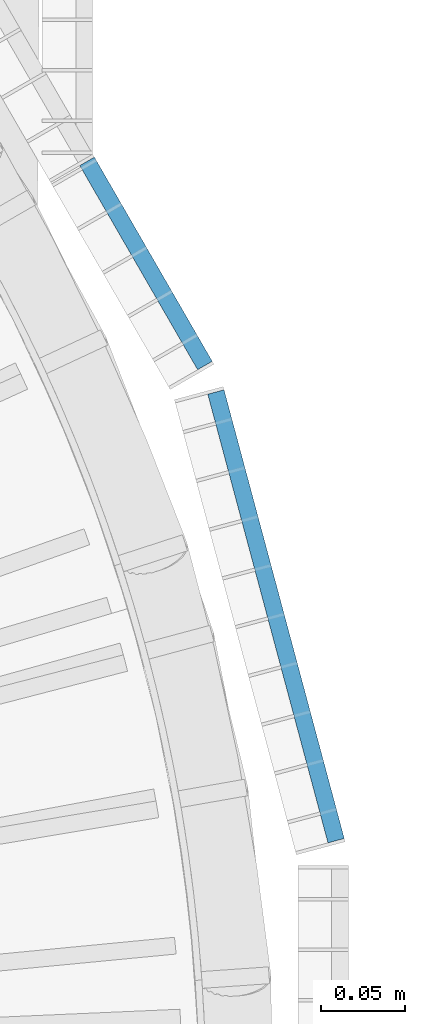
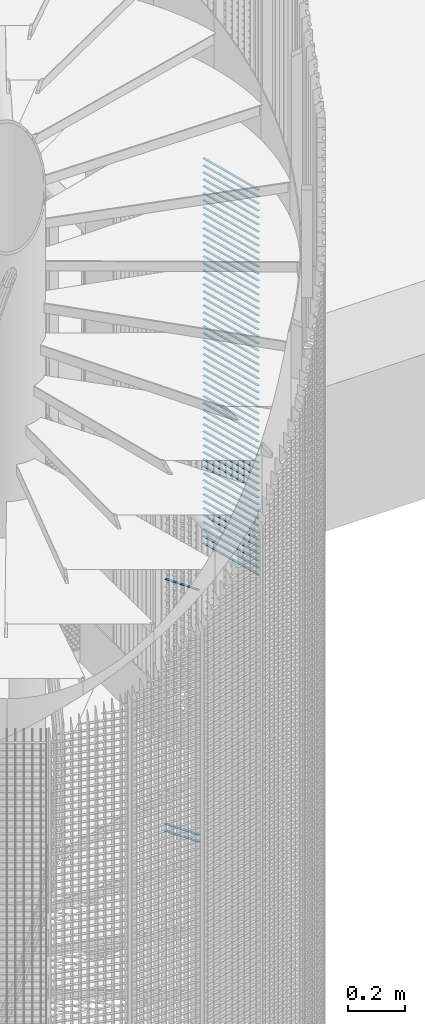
# One storey, part 294 of 1183: 59 beams, 2 elements without a shape of their own.
"""IFC2X3 building model written with IfcOpenShell, lengths in millimetres."""

from ifc_helpers import new_model, si_unit, frame, origin_with_axes, origin_2d_with_axis, place, context, subcontext, project, spatial, rectangle, extrude, material, type_object, element, aggregate, save


model = new_model("IFC2X3")

# Units and contexts
model_context = context("Model", 3, precision=1e-05, world=origin_with_axes())
body_context = subcontext(model_context, "Body", "Model", "MODEL_VIEW")
ifc_project = project(units=[si_unit("LENGTHUNIT", "METRE", prefix="MILLI"), si_unit("AREAUNIT", "SQUARE_METRE"), si_unit("VOLUMEUNIT", "CUBIC_METRE"), si_unit("MASSUNIT", "GRAM", prefix="KILO"), si_unit("TIMEUNIT", "SECOND"), si_unit("PLANEANGLEUNIT", "RADIAN"), si_unit("SOLIDANGLEUNIT", "STERADIAN"), si_unit("THERMODYNAMICTEMPERATUREUNIT", "DEGREE_CELSIUS"), si_unit("LUMINOUSINTENSITYUNIT", "LUMEN")], contexts=[model_context])

# Site, building, storey
site_placement = place(None, origin_with_axes())
site = spatial("IfcSite", under=ifc_project, at=site_placement, Name="Undefined", CompositionType="ELEMENT")
building_placement = place(site_placement, origin_with_axes())
building = spatial("IfcBuilding", under=site, at=building_placement, Name="Undefined", CompositionType="ELEMENT")
storey_placement = place(building_placement, origin_with_axes())
storey = spatial("IfcBuildingStorey", under=building, at=storey_placement, Name="Undefined", CompositionType="ELEMENT", Elevation=0.0)

# Assembly, beams
assembly_1_placement = place(storey_placement, origin_with_axes())
assembly_1 = element("IfcElementAssembly", 1, at=assembly_1_placement, inside=storey, Name="BORDURE", AssemblyPlace="NOTDEFINED", PredefinedType="NOTDEFINED")
ifc_material = material(Name="STEEL/S235JR")
beam_type = type_object("IfcBeamType", Name="PL2*10", PredefinedType="NOTDEFINED")
beam_1_placement = place(assembly_1_placement, frame((1033.2999428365, 437.231999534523, 6060.0), z_axis=(0.866030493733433, 0.499991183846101, 0.0), x_axis=(-0.499991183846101, 0.866030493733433, 0.0)))
beam_1 = element("IfcBeam", 2, at=beam_1_placement, type_object=beam_type, material=ifc_material, Name="ENTRETOISE", context=body_context, shape_type="SweptSolid", body=[
    extrude(rectangle(XDim=2.0, YDim=10.0, at=origin_2d_with_axis()), frame((140.102470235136, 0.0, 0.0), z_axis=(-1.0, 0.0, 0.0), x_axis=(0.0, -1.0, 0.0)), (0.0, 0.0, 1.0), 140.1),
])
beam_2_placement = place(assembly_1_placement, frame((1033.29994283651, 437.23199953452, 7110.0), z_axis=(0.866030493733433, 0.499991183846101, 0.0), x_axis=(-0.499991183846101, 0.866030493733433, 0.0)))
beam_2 = element("IfcBeam", 3, at=beam_2_placement, type_object=beam_type, material=ifc_material, Name="ENTRETOISE", context=body_context, shape_type="SweptSolid", body=[
    extrude(rectangle(XDim=2.0, YDim=10.0, at=origin_2d_with_axis()), frame((140.102470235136, 0.0, 0.0), z_axis=(-1.0, 0.0, 0.0), x_axis=(0.0, -1.0, 0.0)), (0.0, 0.0, 1.0), 140.1),
])
beam_3_placement = place(assembly_1_placement, frame((1033.2999428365, 437.231999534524, 6030.0), z_axis=(0.866030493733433, 0.499991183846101, 0.0), x_axis=(-0.499991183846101, 0.866030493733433, 0.0)))
beam_3 = element("IfcBeam", 4, at=beam_3_placement, type_object=beam_type, material=ifc_material, Name="ENTRETOISE", context=body_context, shape_type="SweptSolid", body=[
    extrude(rectangle(XDim=2.0, YDim=10.0, at=origin_2d_with_axis()), frame((140.102470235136, 0.0, 0.0), z_axis=(-1.0, 0.0, 0.0), x_axis=(0.0, -1.0, 0.0)), (0.0, 0.0, 1.0), 140.1),
])
aggregate(assembly_1, [beam_1, beam_2, beam_3])

assembly_2_placement = place(storey_placement, origin_with_axes())
assembly_2 = element("IfcElementAssembly", 5, at=assembly_2_placement, inside=storey, Name="BORDURE", AssemblyPlace="NOTDEFINED", PredefinedType="NOTDEFINED")
beam_4_placement = place(assembly_2_placement, frame((1111.25508286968, 154.895926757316, 8970.0), z_axis=(0.965925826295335, 0.258819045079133, 0.0), x_axis=(-0.258819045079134, 0.965925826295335, 0.0)))
beam_4 = element("IfcBeam", 6, at=beam_4_placement, type_object=beam_type, material=ifc_material, Name="ENTRETOISE", context=body_context, shape_type="SweptSolid", body=[
    extrude(rectangle(XDim=2.0, YDim=10.0, at=origin_2d_with_axis()), frame((275.999999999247, 9.09494701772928e-13, 1.53210777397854e-14), z_axis=(-1.0, 0.0, 0.0), x_axis=(0.0, -1.0, 0.0)), (0.0, 0.0, 1.0), 276.0),
])
beam_5_placement = place(assembly_2_placement, frame((1111.25508286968, 154.895926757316, 8940.0), z_axis=(0.965925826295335, 0.258819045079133, 0.0), x_axis=(-0.258819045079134, 0.965925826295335, 0.0)))
beam_5 = element("IfcBeam", 7, at=beam_5_placement, type_object=beam_type, material=ifc_material, Name="ENTRETOISE", context=body_context, shape_type="SweptSolid", body=[
    extrude(rectangle(XDim=2.0, YDim=10.0, at=origin_2d_with_axis()), frame((275.999999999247, 9.09494701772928e-13, 1.53210777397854e-14), z_axis=(-1.0, 0.0, 0.0), x_axis=(0.0, -1.0, 0.0)), (0.0, 0.0, 1.0), 276.0),
])
beam_6_placement = place(assembly_2_placement, frame((1111.25508286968, 154.895926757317, 8910.0), z_axis=(0.965925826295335, 0.258819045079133, 0.0), x_axis=(-0.258819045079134, 0.965925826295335, 0.0)))
beam_6 = element("IfcBeam", 8, at=beam_6_placement, type_object=beam_type, material=ifc_material, Name="ENTRETOISE", context=body_context, shape_type="SweptSolid", body=[
    extrude(rectangle(XDim=2.0, YDim=10.0, at=origin_2d_with_axis()), frame((275.999999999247, 9.09494701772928e-13, 1.53210777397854e-14), z_axis=(-1.0, 0.0, 0.0), x_axis=(0.0, -1.0, 0.0)), (0.0, 0.0, 1.0), 276.0),
])
beam_7_placement = place(assembly_2_placement, frame((1111.25508286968, 154.895926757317, 8880.0), z_axis=(0.965925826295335, 0.258819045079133, 0.0), x_axis=(-0.258819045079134, 0.965925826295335, 0.0)))
beam_7 = element("IfcBeam", 9, at=beam_7_placement, type_object=beam_type, material=ifc_material, Name="ENTRETOISE", context=body_context, shape_type="SweptSolid", body=[
    extrude(rectangle(XDim=2.0, YDim=10.0, at=origin_2d_with_axis()), frame((275.999999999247, 9.09494701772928e-13, 1.53210777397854e-14), z_axis=(-1.0, 0.0, 0.0), x_axis=(0.0, -1.0, 0.0)), (0.0, 0.0, 1.0), 276.0),
])
beam_8_placement = place(assembly_2_placement, frame((1111.25508286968, 154.895926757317, 8850.0), z_axis=(0.965925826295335, 0.258819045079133, 0.0), x_axis=(-0.258819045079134, 0.965925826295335, 0.0)))
beam_8 = element("IfcBeam", 10, at=beam_8_placement, type_object=beam_type, material=ifc_material, Name="ENTRETOISE", context=body_context, shape_type="SweptSolid", body=[
    extrude(rectangle(XDim=2.0, YDim=10.0, at=origin_2d_with_axis()), frame((275.999999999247, 9.09494701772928e-13, 1.53210777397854e-14), z_axis=(-1.0, 0.0, 0.0), x_axis=(0.0, -1.0, 0.0)), (0.0, 0.0, 1.0), 276.0),
])
beam_9_placement = place(assembly_2_placement, frame((1111.25508286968, 154.895926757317, 8820.0), z_axis=(0.965925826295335, 0.258819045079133, 0.0), x_axis=(-0.258819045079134, 0.965925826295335, 0.0)))
beam_9 = element("IfcBeam", 11, at=beam_9_placement, type_object=beam_type, material=ifc_material, Name="ENTRETOISE", context=body_context, shape_type="SweptSolid", body=[
    extrude(rectangle(XDim=2.0, YDim=10.0, at=origin_2d_with_axis()), frame((275.999999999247, 9.09494701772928e-13, 1.53210777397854e-14), z_axis=(-1.0, 0.0, 0.0), x_axis=(0.0, -1.0, 0.0)), (0.0, 0.0, 1.0), 276.0),
])
beam_10_placement = place(assembly_2_placement, frame((1111.25508286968, 154.895926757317, 8790.0), z_axis=(0.965925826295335, 0.258819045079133, 0.0), x_axis=(-0.258819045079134, 0.965925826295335, 0.0)))
beam_10 = element("IfcBeam", 12, at=beam_10_placement, type_object=beam_type, material=ifc_material, Name="ENTRETOISE", context=body_context, shape_type="SweptSolid", body=[
    extrude(rectangle(XDim=2.0, YDim=10.0, at=origin_2d_with_axis()), frame((275.999999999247, 9.09494701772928e-13, 1.53210777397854e-14), z_axis=(-1.0, 0.0, 0.0), x_axis=(0.0, -1.0, 0.0)), (0.0, 0.0, 1.0), 276.0),
])
beam_11_placement = place(assembly_2_placement, frame((1111.25508286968, 154.895926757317, 8760.0), z_axis=(0.965925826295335, 0.258819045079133, 0.0), x_axis=(-0.258819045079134, 0.965925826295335, 0.0)))
beam_11 = element("IfcBeam", 13, at=beam_11_placement, type_object=beam_type, material=ifc_material, Name="ENTRETOISE", context=body_context, shape_type="SweptSolid", body=[
    extrude(rectangle(XDim=2.0, YDim=10.0, at=origin_2d_with_axis()), frame((275.999999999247, 9.09494701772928e-13, 1.53210777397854e-14), z_axis=(-1.0, 0.0, 0.0), x_axis=(0.0, -1.0, 0.0)), (0.0, 0.0, 1.0), 276.0),
])
beam_12_placement = place(assembly_2_placement, frame((1111.25508286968, 154.895926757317, 8730.0), z_axis=(0.965925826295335, 0.258819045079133, 0.0), x_axis=(-0.258819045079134, 0.965925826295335, 0.0)))
beam_12 = element("IfcBeam", 14, at=beam_12_placement, type_object=beam_type, material=ifc_material, Name="ENTRETOISE", context=body_context, shape_type="SweptSolid", body=[
    extrude(rectangle(XDim=2.0, YDim=10.0, at=origin_2d_with_axis()), frame((275.999999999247, 9.09494701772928e-13, 1.53210777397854e-14), z_axis=(-1.0, 0.0, 0.0), x_axis=(0.0, -1.0, 0.0)), (0.0, 0.0, 1.0), 276.0),
])
beam_13_placement = place(assembly_2_placement, frame((1111.25508286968, 154.895926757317, 8700.0), z_axis=(0.965925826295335, 0.258819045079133, 0.0), x_axis=(-0.258819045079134, 0.965925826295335, 0.0)))
beam_13 = element("IfcBeam", 15, at=beam_13_placement, type_object=beam_type, material=ifc_material, Name="ENTRETOISE", context=body_context, shape_type="SweptSolid", body=[
    extrude(rectangle(XDim=2.0, YDim=10.0, at=origin_2d_with_axis()), frame((275.999999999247, 9.09494701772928e-13, 1.53210777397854e-14), z_axis=(-1.0, 0.0, 0.0), x_axis=(0.0, -1.0, 0.0)), (0.0, 0.0, 1.0), 276.0),
])
beam_14_placement = place(assembly_2_placement, frame((1111.25508286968, 154.895926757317, 8670.0), z_axis=(0.965925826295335, 0.258819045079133, 0.0), x_axis=(-0.258819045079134, 0.965925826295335, 0.0)))
beam_14 = element("IfcBeam", 16, at=beam_14_placement, type_object=beam_type, material=ifc_material, Name="ENTRETOISE", context=body_context, shape_type="SweptSolid", body=[
    extrude(rectangle(XDim=2.0, YDim=10.0, at=origin_2d_with_axis()), frame((275.999999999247, 9.09494701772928e-13, 1.53210777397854e-14), z_axis=(-1.0, 0.0, 0.0), x_axis=(0.0, -1.0, 0.0)), (0.0, 0.0, 1.0), 276.0),
])
beam_15_placement = place(assembly_2_placement, frame((1111.25508286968, 154.895926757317, 8640.0), z_axis=(0.965925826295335, 0.258819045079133, 0.0), x_axis=(-0.258819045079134, 0.965925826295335, 0.0)))
beam_15 = element("IfcBeam", 17, at=beam_15_placement, type_object=beam_type, material=ifc_material, Name="ENTRETOISE", context=body_context, shape_type="SweptSolid", body=[
    extrude(rectangle(XDim=2.0, YDim=10.0, at=origin_2d_with_axis()), frame((275.999999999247, 9.09494701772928e-13, 1.53210777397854e-14), z_axis=(-1.0, 0.0, 0.0), x_axis=(0.0, -1.0, 0.0)), (0.0, 0.0, 1.0), 276.0),
])
beam_16_placement = place(assembly_2_placement, frame((1111.25508286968, 154.895926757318, 8610.0), z_axis=(0.965925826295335, 0.258819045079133, 0.0), x_axis=(-0.258819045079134, 0.965925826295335, 0.0)))
beam_16 = element("IfcBeam", 18, at=beam_16_placement, type_object=beam_type, material=ifc_material, Name="ENTRETOISE", context=body_context, shape_type="SweptSolid", body=[
    extrude(rectangle(XDim=2.0, YDim=10.0, at=origin_2d_with_axis()), frame((275.999999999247, 9.09494701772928e-13, 1.53210777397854e-14), z_axis=(-1.0, 0.0, 0.0), x_axis=(0.0, -1.0, 0.0)), (0.0, 0.0, 1.0), 276.0),
])
beam_17_placement = place(assembly_2_placement, frame((1111.25508286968, 154.895926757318, 8580.0), z_axis=(0.965925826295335, 0.258819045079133, 0.0), x_axis=(-0.258819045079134, 0.965925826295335, 0.0)))
beam_17 = element("IfcBeam", 19, at=beam_17_placement, type_object=beam_type, material=ifc_material, Name="ENTRETOISE", context=body_context, shape_type="SweptSolid", body=[
    extrude(rectangle(XDim=2.0, YDim=10.0, at=origin_2d_with_axis()), frame((275.999999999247, 9.09494701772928e-13, 1.53210777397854e-14), z_axis=(-1.0, 0.0, 0.0), x_axis=(0.0, -1.0, 0.0)), (0.0, 0.0, 1.0), 276.0),
])
beam_18_placement = place(assembly_2_placement, frame((1111.25508286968, 154.895926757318, 8550.0), z_axis=(0.965925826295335, 0.258819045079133, 0.0), x_axis=(-0.258819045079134, 0.965925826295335, 0.0)))
beam_18 = element("IfcBeam", 20, at=beam_18_placement, type_object=beam_type, material=ifc_material, Name="ENTRETOISE", context=body_context, shape_type="SweptSolid", body=[
    extrude(rectangle(XDim=2.0, YDim=10.0, at=origin_2d_with_axis()), frame((275.999999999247, 9.09494701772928e-13, 1.53210777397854e-14), z_axis=(-1.0, 0.0, 0.0), x_axis=(0.0, -1.0, 0.0)), (0.0, 0.0, 1.0), 276.0),
])
beam_19_placement = place(assembly_2_placement, frame((1111.25508286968, 154.895926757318, 8520.0), z_axis=(0.965925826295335, 0.258819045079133, 0.0), x_axis=(-0.258819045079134, 0.965925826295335, 0.0)))
beam_19 = element("IfcBeam", 21, at=beam_19_placement, type_object=beam_type, material=ifc_material, Name="ENTRETOISE", context=body_context, shape_type="SweptSolid", body=[
    extrude(rectangle(XDim=2.0, YDim=10.0, at=origin_2d_with_axis()), frame((275.999999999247, 9.09494701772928e-13, 1.53210777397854e-14), z_axis=(-1.0, 0.0, 0.0), x_axis=(0.0, -1.0, 0.0)), (0.0, 0.0, 1.0), 276.0),
])
beam_20_placement = place(assembly_2_placement, frame((1111.25508286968, 154.895926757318, 8490.0), z_axis=(0.965925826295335, 0.258819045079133, 0.0), x_axis=(-0.258819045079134, 0.965925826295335, 0.0)))
beam_20 = element("IfcBeam", 22, at=beam_20_placement, type_object=beam_type, material=ifc_material, Name="ENTRETOISE", context=body_context, shape_type="SweptSolid", body=[
    extrude(rectangle(XDim=2.0, YDim=10.0, at=origin_2d_with_axis()), frame((275.999999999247, 9.09494701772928e-13, 1.53210777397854e-14), z_axis=(-1.0, 0.0, 0.0), x_axis=(0.0, -1.0, 0.0)), (0.0, 0.0, 1.0), 276.0),
])
beam_21_placement = place(assembly_2_placement, frame((1111.25508286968, 154.895926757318, 8460.0), z_axis=(0.965925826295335, 0.258819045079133, 0.0), x_axis=(-0.258819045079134, 0.965925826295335, 0.0)))
beam_21 = element("IfcBeam", 23, at=beam_21_placement, type_object=beam_type, material=ifc_material, Name="ENTRETOISE", context=body_context, shape_type="SweptSolid", body=[
    extrude(rectangle(XDim=2.0, YDim=10.0, at=origin_2d_with_axis()), frame((275.999999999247, 9.09494701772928e-13, 1.53210777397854e-14), z_axis=(-1.0, 0.0, 0.0), x_axis=(0.0, -1.0, 0.0)), (0.0, 0.0, 1.0), 276.0),
])
beam_22_placement = place(assembly_2_placement, frame((1111.25508286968, 154.895926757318, 8430.0), z_axis=(0.965925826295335, 0.258819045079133, 0.0), x_axis=(-0.258819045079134, 0.965925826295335, 0.0)))
beam_22 = element("IfcBeam", 24, at=beam_22_placement, type_object=beam_type, material=ifc_material, Name="ENTRETOISE", context=body_context, shape_type="SweptSolid", body=[
    extrude(rectangle(XDim=2.0, YDim=10.0, at=origin_2d_with_axis()), frame((275.999999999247, 9.09494701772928e-13, 1.53210777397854e-14), z_axis=(-1.0, 0.0, 0.0), x_axis=(0.0, -1.0, 0.0)), (0.0, 0.0, 1.0), 276.0),
])
beam_23_placement = place(assembly_2_placement, frame((1111.25508286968, 154.895926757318, 8400.0), z_axis=(0.965925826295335, 0.258819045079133, 0.0), x_axis=(-0.258819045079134, 0.965925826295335, 0.0)))
beam_23 = element("IfcBeam", 25, at=beam_23_placement, type_object=beam_type, material=ifc_material, Name="ENTRETOISE", context=body_context, shape_type="SweptSolid", body=[
    extrude(rectangle(XDim=2.0, YDim=10.0, at=origin_2d_with_axis()), frame((275.999999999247, 9.09494701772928e-13, 1.53210777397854e-14), z_axis=(-1.0, 0.0, 0.0), x_axis=(0.0, -1.0, 0.0)), (0.0, 0.0, 1.0), 276.0),
])
beam_24_placement = place(assembly_2_placement, frame((1111.25508286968, 154.895926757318, 8370.0), z_axis=(0.965925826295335, 0.258819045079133, 0.0), x_axis=(-0.258819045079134, 0.965925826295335, 0.0)))
beam_24 = element("IfcBeam", 26, at=beam_24_placement, type_object=beam_type, material=ifc_material, Name="ENTRETOISE", context=body_context, shape_type="SweptSolid", body=[
    extrude(rectangle(XDim=2.0, YDim=10.0, at=origin_2d_with_axis()), frame((275.999999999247, 9.09494701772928e-13, 1.53210777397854e-14), z_axis=(-1.0, 0.0, 0.0), x_axis=(0.0, -1.0, 0.0)), (0.0, 0.0, 1.0), 276.0),
])
beam_25_placement = place(assembly_2_placement, frame((1111.25508286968, 154.895926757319, 8340.0), z_axis=(0.965925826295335, 0.258819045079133, 0.0), x_axis=(-0.258819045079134, 0.965925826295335, 0.0)))
beam_25 = element("IfcBeam", 27, at=beam_25_placement, type_object=beam_type, material=ifc_material, Name="ENTRETOISE", context=body_context, shape_type="SweptSolid", body=[
    extrude(rectangle(XDim=2.0, YDim=10.0, at=origin_2d_with_axis()), frame((275.999999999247, 9.09494701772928e-13, 1.53210777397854e-14), z_axis=(-1.0, 0.0, 0.0), x_axis=(0.0, -1.0, 0.0)), (0.0, 0.0, 1.0), 276.0),
])
beam_26_placement = place(assembly_2_placement, frame((1111.25508286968, 154.895926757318, 8310.0), z_axis=(0.965925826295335, 0.258819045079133, 0.0), x_axis=(-0.258819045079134, 0.965925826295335, 0.0)))
beam_26 = element("IfcBeam", 28, at=beam_26_placement, type_object=beam_type, material=ifc_material, Name="ENTRETOISE", context=body_context, shape_type="SweptSolid", body=[
    extrude(rectangle(XDim=2.0, YDim=10.0, at=origin_2d_with_axis()), frame((275.999999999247, 9.09494701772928e-13, 1.53210777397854e-14), z_axis=(-1.0, 0.0, 0.0), x_axis=(0.0, -1.0, 0.0)), (0.0, 0.0, 1.0), 276.0),
])
beam_27_placement = place(assembly_2_placement, frame((1111.25508286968, 154.895926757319, 8280.0), z_axis=(0.965925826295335, 0.258819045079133, 0.0), x_axis=(-0.258819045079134, 0.965925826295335, 0.0)))
beam_27 = element("IfcBeam", 29, at=beam_27_placement, type_object=beam_type, material=ifc_material, Name="ENTRETOISE", context=body_context, shape_type="SweptSolid", body=[
    extrude(rectangle(XDim=2.0, YDim=10.0, at=origin_2d_with_axis()), frame((275.999999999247, 9.09494701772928e-13, 1.53210777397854e-14), z_axis=(-1.0, 0.0, 0.0), x_axis=(0.0, -1.0, 0.0)), (0.0, 0.0, 1.0), 276.0),
])
beam_28_placement = place(assembly_2_placement, frame((1111.25508286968, 154.895926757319, 8250.0), z_axis=(0.965925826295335, 0.258819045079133, 0.0), x_axis=(-0.258819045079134, 0.965925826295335, 0.0)))
beam_28 = element("IfcBeam", 30, at=beam_28_placement, type_object=beam_type, material=ifc_material, Name="ENTRETOISE", context=body_context, shape_type="SweptSolid", body=[
    extrude(rectangle(XDim=2.0, YDim=10.0, at=origin_2d_with_axis()), frame((275.999999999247, 9.09494701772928e-13, 1.53210777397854e-14), z_axis=(-1.0, 0.0, 0.0), x_axis=(0.0, -1.0, 0.0)), (0.0, 0.0, 1.0), 276.0),
])
beam_29_placement = place(assembly_2_placement, frame((1111.25508286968, 154.895926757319, 8220.0), z_axis=(0.965925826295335, 0.258819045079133, 0.0), x_axis=(-0.258819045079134, 0.965925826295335, 0.0)))
beam_29 = element("IfcBeam", 31, at=beam_29_placement, type_object=beam_type, material=ifc_material, Name="ENTRETOISE", context=body_context, shape_type="SweptSolid", body=[
    extrude(rectangle(XDim=2.0, YDim=10.0, at=origin_2d_with_axis()), frame((275.999999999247, 9.09494701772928e-13, 1.53210777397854e-14), z_axis=(-1.0, 0.0, 0.0), x_axis=(0.0, -1.0, 0.0)), (0.0, 0.0, 1.0), 276.0),
])
beam_30_placement = place(assembly_2_placement, frame((1111.25508286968, 154.895926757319, 8190.0), z_axis=(0.965925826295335, 0.258819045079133, 0.0), x_axis=(-0.258819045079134, 0.965925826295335, 0.0)))
beam_30 = element("IfcBeam", 32, at=beam_30_placement, type_object=beam_type, material=ifc_material, Name="ENTRETOISE", context=body_context, shape_type="SweptSolid", body=[
    extrude(rectangle(XDim=2.0, YDim=10.0, at=origin_2d_with_axis()), frame((275.999999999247, 9.09494701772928e-13, 1.53210777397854e-14), z_axis=(-1.0, 0.0, 0.0), x_axis=(0.0, -1.0, 0.0)), (0.0, 0.0, 1.0), 276.0),
])
beam_31_placement = place(assembly_2_placement, frame((1111.25508286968, 154.895926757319, 8160.0), z_axis=(0.965925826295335, 0.258819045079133, 0.0), x_axis=(-0.258819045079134, 0.965925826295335, 0.0)))
beam_31 = element("IfcBeam", 33, at=beam_31_placement, type_object=beam_type, material=ifc_material, Name="ENTRETOISE", context=body_context, shape_type="SweptSolid", body=[
    extrude(rectangle(XDim=2.0, YDim=10.0, at=origin_2d_with_axis()), frame((275.999999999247, 9.09494701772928e-13, 1.53210777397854e-14), z_axis=(-1.0, 0.0, 0.0), x_axis=(0.0, -1.0, 0.0)), (0.0, 0.0, 1.0), 276.0),
])
beam_32_placement = place(assembly_2_placement, frame((1111.25508286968, 154.895926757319, 8130.0), z_axis=(0.965925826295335, 0.258819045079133, 0.0), x_axis=(-0.258819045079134, 0.965925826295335, 0.0)))
beam_32 = element("IfcBeam", 34, at=beam_32_placement, type_object=beam_type, material=ifc_material, Name="ENTRETOISE", context=body_context, shape_type="SweptSolid", body=[
    extrude(rectangle(XDim=2.0, YDim=10.0, at=origin_2d_with_axis()), frame((275.999999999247, 9.09494701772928e-13, 1.53210777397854e-14), z_axis=(-1.0, 0.0, 0.0), x_axis=(0.0, -1.0, 0.0)), (0.0, 0.0, 1.0), 276.0),
])
beam_33_placement = place(assembly_2_placement, frame((1111.25508286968, 154.895926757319, 8100.0), z_axis=(0.965925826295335, 0.258819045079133, 0.0), x_axis=(-0.258819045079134, 0.965925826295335, 0.0)))
beam_33 = element("IfcBeam", 35, at=beam_33_placement, type_object=beam_type, material=ifc_material, Name="ENTRETOISE", context=body_context, shape_type="SweptSolid", body=[
    extrude(rectangle(XDim=2.0, YDim=10.0, at=origin_2d_with_axis()), frame((275.999999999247, 9.09494701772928e-13, 1.53210777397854e-14), z_axis=(-1.0, 0.0, 0.0), x_axis=(0.0, -1.0, 0.0)), (0.0, 0.0, 1.0), 276.0),
])
beam_34_placement = place(assembly_2_placement, frame((1111.25508286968, 154.895926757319, 8070.0), z_axis=(0.965925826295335, 0.258819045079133, 0.0), x_axis=(-0.258819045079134, 0.965925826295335, 0.0)))
beam_34 = element("IfcBeam", 36, at=beam_34_placement, type_object=beam_type, material=ifc_material, Name="ENTRETOISE", context=body_context, shape_type="SweptSolid", body=[
    extrude(rectangle(XDim=2.0, YDim=10.0, at=origin_2d_with_axis()), frame((275.999999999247, 9.09494701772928e-13, 1.53210777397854e-14), z_axis=(-1.0, 0.0, 0.0), x_axis=(0.0, -1.0, 0.0)), (0.0, 0.0, 1.0), 276.0),
])
beam_35_placement = place(assembly_2_placement, frame((1111.25508286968, 154.89592675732, 8040.0), z_axis=(0.965925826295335, 0.258819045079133, 0.0), x_axis=(-0.258819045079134, 0.965925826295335, 0.0)))
beam_35 = element("IfcBeam", 37, at=beam_35_placement, type_object=beam_type, material=ifc_material, Name="ENTRETOISE", context=body_context, shape_type="SweptSolid", body=[
    extrude(rectangle(XDim=2.0, YDim=10.0, at=origin_2d_with_axis()), frame((275.999999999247, 9.09494701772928e-13, 1.53210777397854e-14), z_axis=(-1.0, 0.0, 0.0), x_axis=(0.0, -1.0, 0.0)), (0.0, 0.0, 1.0), 276.0),
])
beam_36_placement = place(assembly_2_placement, frame((1111.25508286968, 154.89592675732, 8010.0), z_axis=(0.965925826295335, 0.258819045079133, 0.0), x_axis=(-0.258819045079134, 0.965925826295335, 0.0)))
beam_36 = element("IfcBeam", 38, at=beam_36_placement, type_object=beam_type, material=ifc_material, Name="ENTRETOISE", context=body_context, shape_type="SweptSolid", body=[
    extrude(rectangle(XDim=2.0, YDim=10.0, at=origin_2d_with_axis()), frame((275.999999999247, 9.09494701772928e-13, 1.53210777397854e-14), z_axis=(-1.0, 0.0, 0.0), x_axis=(0.0, -1.0, 0.0)), (0.0, 0.0, 1.0), 276.0),
])
beam_37_placement = place(assembly_2_placement, frame((1111.25508286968, 154.89592675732, 7980.0), z_axis=(0.965925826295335, 0.258819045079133, 0.0), x_axis=(-0.258819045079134, 0.965925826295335, 0.0)))
beam_37 = element("IfcBeam", 39, at=beam_37_placement, type_object=beam_type, material=ifc_material, Name="ENTRETOISE", context=body_context, shape_type="SweptSolid", body=[
    extrude(rectangle(XDim=2.0, YDim=10.0, at=origin_2d_with_axis()), frame((275.999999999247, 9.09494701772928e-13, 1.53210777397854e-14), z_axis=(-1.0, 0.0, 0.0), x_axis=(0.0, -1.0, 0.0)), (0.0, 0.0, 1.0), 276.0),
])
beam_38_placement = place(assembly_2_placement, frame((1111.25508286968, 154.89592675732, 7950.0), z_axis=(0.965925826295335, 0.258819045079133, 0.0), x_axis=(-0.258819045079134, 0.965925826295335, 0.0)))
beam_38 = element("IfcBeam", 40, at=beam_38_placement, type_object=beam_type, material=ifc_material, Name="ENTRETOISE", context=body_context, shape_type="SweptSolid", body=[
    extrude(rectangle(XDim=2.0, YDim=10.0, at=origin_2d_with_axis()), frame((275.999999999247, 9.09494701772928e-13, 1.53210777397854e-14), z_axis=(-1.0, 0.0, 0.0), x_axis=(0.0, -1.0, 0.0)), (0.0, 0.0, 1.0), 276.0),
])
beam_39_placement = place(assembly_2_placement, frame((1111.25508286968, 154.89592675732, 7920.0), z_axis=(0.965925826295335, 0.258819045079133, 0.0), x_axis=(-0.258819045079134, 0.965925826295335, 0.0)))
beam_39 = element("IfcBeam", 41, at=beam_39_placement, type_object=beam_type, material=ifc_material, Name="ENTRETOISE", context=body_context, shape_type="SweptSolid", body=[
    extrude(rectangle(XDim=2.0, YDim=10.0, at=origin_2d_with_axis()), frame((275.999999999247, 9.09494701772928e-13, 1.53210777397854e-14), z_axis=(-1.0, 0.0, 0.0), x_axis=(0.0, -1.0, 0.0)), (0.0, 0.0, 1.0), 276.0),
])
beam_40_placement = place(assembly_2_placement, frame((1111.25508286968, 154.89592675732, 7890.0), z_axis=(0.965925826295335, 0.258819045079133, 0.0), x_axis=(-0.258819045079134, 0.965925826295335, 0.0)))
beam_40 = element("IfcBeam", 42, at=beam_40_placement, type_object=beam_type, material=ifc_material, Name="ENTRETOISE", context=body_context, shape_type="SweptSolid", body=[
    extrude(rectangle(XDim=2.0, YDim=10.0, at=origin_2d_with_axis()), frame((275.999999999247, 9.09494701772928e-13, 1.53210777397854e-14), z_axis=(-1.0, 0.0, 0.0), x_axis=(0.0, -1.0, 0.0)), (0.0, 0.0, 1.0), 276.0),
])
beam_41_placement = place(assembly_2_placement, frame((1111.25508286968, 154.89592675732, 7860.0), z_axis=(0.965925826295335, 0.258819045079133, 0.0), x_axis=(-0.258819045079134, 0.965925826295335, 0.0)))
beam_41 = element("IfcBeam", 43, at=beam_41_placement, type_object=beam_type, material=ifc_material, Name="ENTRETOISE", context=body_context, shape_type="SweptSolid", body=[
    extrude(rectangle(XDim=2.0, YDim=10.0, at=origin_2d_with_axis()), frame((275.999999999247, 9.09494701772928e-13, 1.53210777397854e-14), z_axis=(-1.0, 0.0, 0.0), x_axis=(0.0, -1.0, 0.0)), (0.0, 0.0, 1.0), 276.0),
])
beam_42_placement = place(assembly_2_placement, frame((1111.25508286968, 154.89592675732, 7830.0), z_axis=(0.965925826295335, 0.258819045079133, 0.0), x_axis=(-0.258819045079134, 0.965925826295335, 0.0)))
beam_42 = element("IfcBeam", 44, at=beam_42_placement, type_object=beam_type, material=ifc_material, Name="ENTRETOISE", context=body_context, shape_type="SweptSolid", body=[
    extrude(rectangle(XDim=2.0, YDim=10.0, at=origin_2d_with_axis()), frame((275.999999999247, 9.09494701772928e-13, 1.53210777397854e-14), z_axis=(-1.0, 0.0, 0.0), x_axis=(0.0, -1.0, 0.0)), (0.0, 0.0, 1.0), 276.0),
])
beam_43_placement = place(assembly_2_placement, frame((1111.25508286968, 154.89592675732, 7800.0), z_axis=(0.965925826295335, 0.258819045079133, 0.0), x_axis=(-0.258819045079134, 0.965925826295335, 0.0)))
beam_43 = element("IfcBeam", 45, at=beam_43_placement, type_object=beam_type, material=ifc_material, Name="ENTRETOISE", context=body_context, shape_type="SweptSolid", body=[
    extrude(rectangle(XDim=2.0, YDim=10.0, at=origin_2d_with_axis()), frame((275.999999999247, 9.09494701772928e-13, 1.53210777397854e-14), z_axis=(-1.0, 0.0, 0.0), x_axis=(0.0, -1.0, 0.0)), (0.0, 0.0, 1.0), 276.0),
])
beam_44_placement = place(assembly_2_placement, frame((1111.25508286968, 154.89592675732, 7770.0), z_axis=(0.965925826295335, 0.258819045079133, 0.0), x_axis=(-0.258819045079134, 0.965925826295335, 0.0)))
beam_44 = element("IfcBeam", 46, at=beam_44_placement, type_object=beam_type, material=ifc_material, Name="ENTRETOISE", context=body_context, shape_type="SweptSolid", body=[
    extrude(rectangle(XDim=2.0, YDim=10.0, at=origin_2d_with_axis()), frame((275.999999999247, 9.09494701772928e-13, 1.53210777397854e-14), z_axis=(-1.0, 0.0, 0.0), x_axis=(0.0, -1.0, 0.0)), (0.0, 0.0, 1.0), 276.0),
])
beam_45_placement = place(assembly_2_placement, frame((1111.25508286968, 154.89592675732, 7740.0), z_axis=(0.965925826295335, 0.258819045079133, 0.0), x_axis=(-0.258819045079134, 0.965925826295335, 0.0)))
beam_45 = element("IfcBeam", 47, at=beam_45_placement, type_object=beam_type, material=ifc_material, Name="ENTRETOISE", context=body_context, shape_type="SweptSolid", body=[
    extrude(rectangle(XDim=2.0, YDim=10.0, at=origin_2d_with_axis()), frame((275.999999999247, 9.09494701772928e-13, 1.53210777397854e-14), z_axis=(-1.0, 0.0, 0.0), x_axis=(0.0, -1.0, 0.0)), (0.0, 0.0, 1.0), 276.0),
])
beam_46_placement = place(assembly_2_placement, frame((1111.25508286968, 154.895926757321, 7710.0), z_axis=(0.965925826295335, 0.258819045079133, 0.0), x_axis=(-0.258819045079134, 0.965925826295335, 0.0)))
beam_46 = element("IfcBeam", 48, at=beam_46_placement, type_object=beam_type, material=ifc_material, Name="ENTRETOISE", context=body_context, shape_type="SweptSolid", body=[
    extrude(rectangle(XDim=2.0, YDim=10.0, at=origin_2d_with_axis()), frame((275.999999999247, 9.09494701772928e-13, 1.53210777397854e-14), z_axis=(-1.0, 0.0, 0.0), x_axis=(0.0, -1.0, 0.0)), (0.0, 0.0, 1.0), 276.0),
])
beam_47_placement = place(assembly_2_placement, frame((1111.25508286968, 154.895926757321, 7680.0), z_axis=(0.965925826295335, 0.258819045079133, 0.0), x_axis=(-0.258819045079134, 0.965925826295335, 0.0)))
beam_47 = element("IfcBeam", 49, at=beam_47_placement, type_object=beam_type, material=ifc_material, Name="ENTRETOISE", context=body_context, shape_type="SweptSolid", body=[
    extrude(rectangle(XDim=2.0, YDim=10.0, at=origin_2d_with_axis()), frame((275.999999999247, 9.09494701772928e-13, 1.53210777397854e-14), z_axis=(-1.0, 0.0, 0.0), x_axis=(0.0, -1.0, 0.0)), (0.0, 0.0, 1.0), 276.0),
])
beam_48_placement = place(assembly_2_placement, frame((1111.25508286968, 154.895926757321, 7650.0), z_axis=(0.965925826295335, 0.258819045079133, 0.0), x_axis=(-0.258819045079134, 0.965925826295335, 0.0)))
beam_48 = element("IfcBeam", 50, at=beam_48_placement, type_object=beam_type, material=ifc_material, Name="ENTRETOISE", context=body_context, shape_type="SweptSolid", body=[
    extrude(rectangle(XDim=2.0, YDim=10.0, at=origin_2d_with_axis()), frame((275.999999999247, 9.09494701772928e-13, 1.53210777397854e-14), z_axis=(-1.0, 0.0, 0.0), x_axis=(0.0, -1.0, 0.0)), (0.0, 0.0, 1.0), 276.0),
])
beam_49_placement = place(assembly_2_placement, frame((1111.25508286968, 154.895926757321, 7620.0), z_axis=(0.965925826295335, 0.258819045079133, 0.0), x_axis=(-0.258819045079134, 0.965925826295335, 0.0)))
beam_49 = element("IfcBeam", 51, at=beam_49_placement, type_object=beam_type, material=ifc_material, Name="ENTRETOISE", context=body_context, shape_type="SweptSolid", body=[
    extrude(rectangle(XDim=2.0, YDim=10.0, at=origin_2d_with_axis()), frame((275.999999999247, 9.09494701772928e-13, 1.53210777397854e-14), z_axis=(-1.0, 0.0, 0.0), x_axis=(0.0, -1.0, 0.0)), (0.0, 0.0, 1.0), 276.0),
])
beam_50_placement = place(assembly_2_placement, frame((1111.25508286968, 154.895926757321, 7590.0), z_axis=(0.965925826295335, 0.258819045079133, 0.0), x_axis=(-0.258819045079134, 0.965925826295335, 0.0)))
beam_50 = element("IfcBeam", 52, at=beam_50_placement, type_object=beam_type, material=ifc_material, Name="ENTRETOISE", context=body_context, shape_type="SweptSolid", body=[
    extrude(rectangle(XDim=2.0, YDim=10.0, at=origin_2d_with_axis()), frame((275.999999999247, 9.09494701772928e-13, 1.53210777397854e-14), z_axis=(-1.0, 0.0, 0.0), x_axis=(0.0, -1.0, 0.0)), (0.0, 0.0, 1.0), 276.0),
])
beam_51_placement = place(assembly_2_placement, frame((1111.25508286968, 154.895926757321, 7560.0), z_axis=(0.965925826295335, 0.258819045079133, 0.0), x_axis=(-0.258819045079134, 0.965925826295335, 0.0)))
beam_51 = element("IfcBeam", 53, at=beam_51_placement, type_object=beam_type, material=ifc_material, Name="ENTRETOISE", context=body_context, shape_type="SweptSolid", body=[
    extrude(rectangle(XDim=2.0, YDim=10.0, at=origin_2d_with_axis()), frame((275.999999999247, 9.09494701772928e-13, 1.53210777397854e-14), z_axis=(-1.0, 0.0, 0.0), x_axis=(0.0, -1.0, 0.0)), (0.0, 0.0, 1.0), 276.0),
])
beam_52_placement = place(assembly_2_placement, frame((1111.25508286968, 154.895926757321, 7530.0), z_axis=(0.965925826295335, 0.258819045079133, 0.0), x_axis=(-0.258819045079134, 0.965925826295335, 0.0)))
beam_52 = element("IfcBeam", 54, at=beam_52_placement, type_object=beam_type, material=ifc_material, Name="ENTRETOISE", context=body_context, shape_type="SweptSolid", body=[
    extrude(rectangle(XDim=2.0, YDim=10.0, at=origin_2d_with_axis()), frame((275.999999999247, 9.09494701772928e-13, 1.53210777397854e-14), z_axis=(-1.0, 0.0, 0.0), x_axis=(0.0, -1.0, 0.0)), (0.0, 0.0, 1.0), 276.0),
])
beam_53_placement = place(assembly_2_placement, frame((1111.25508286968, 154.895926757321, 7500.0), z_axis=(0.965925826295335, 0.258819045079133, 0.0), x_axis=(-0.258819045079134, 0.965925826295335, 0.0)))
beam_53 = element("IfcBeam", 55, at=beam_53_placement, type_object=beam_type, material=ifc_material, Name="ENTRETOISE", context=body_context, shape_type="SweptSolid", body=[
    extrude(rectangle(XDim=2.0, YDim=10.0, at=origin_2d_with_axis()), frame((275.999999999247, 9.09494701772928e-13, 1.53210777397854e-14), z_axis=(-1.0, 0.0, 0.0), x_axis=(0.0, -1.0, 0.0)), (0.0, 0.0, 1.0), 276.0),
])
beam_54_placement = place(assembly_2_placement, frame((1111.25508286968, 154.895926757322, 7470.0), z_axis=(0.965925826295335, 0.258819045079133, 0.0), x_axis=(-0.258819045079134, 0.965925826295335, 0.0)))
beam_54 = element("IfcBeam", 56, at=beam_54_placement, type_object=beam_type, material=ifc_material, Name="ENTRETOISE", context=body_context, shape_type="SweptSolid", body=[
    extrude(rectangle(XDim=2.0, YDim=10.0, at=origin_2d_with_axis()), frame((275.999999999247, 9.09494701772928e-13, 1.53210777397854e-14), z_axis=(-1.0, 0.0, 0.0), x_axis=(0.0, -1.0, 0.0)), (0.0, 0.0, 1.0), 276.0),
])
beam_55_placement = place(assembly_2_placement, frame((1111.25508286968, 154.895926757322, 7440.0), z_axis=(0.965925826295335, 0.258819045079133, 0.0), x_axis=(-0.258819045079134, 0.965925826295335, 0.0)))
beam_55 = element("IfcBeam", 57, at=beam_55_placement, type_object=beam_type, material=ifc_material, Name="ENTRETOISE", context=body_context, shape_type="SweptSolid", body=[
    extrude(rectangle(XDim=2.0, YDim=10.0, at=origin_2d_with_axis()), frame((275.999999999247, 9.09494701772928e-13, 1.53210777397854e-14), z_axis=(-1.0, 0.0, 0.0), x_axis=(0.0, -1.0, 0.0)), (0.0, 0.0, 1.0), 276.0),
])
beam_56_placement = place(assembly_2_placement, frame((1111.25508286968, 154.895926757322, 7410.0), z_axis=(0.965925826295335, 0.258819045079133, 0.0), x_axis=(-0.258819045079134, 0.965925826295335, 0.0)))
beam_56 = element("IfcBeam", 58, at=beam_56_placement, type_object=beam_type, material=ifc_material, Name="ENTRETOISE", context=body_context, shape_type="SweptSolid", body=[
    extrude(rectangle(XDim=2.0, YDim=10.0, at=origin_2d_with_axis()), frame((275.999999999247, 9.09494701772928e-13, 1.53210777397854e-14), z_axis=(-1.0, 0.0, 0.0), x_axis=(0.0, -1.0, 0.0)), (0.0, 0.0, 1.0), 276.0),
])
beam_57_placement = place(assembly_2_placement, frame((1111.25508286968, 154.895926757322, 7380.0), z_axis=(0.965925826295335, 0.258819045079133, 0.0), x_axis=(-0.258819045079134, 0.965925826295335, 0.0)))
beam_57 = element("IfcBeam", 59, at=beam_57_placement, type_object=beam_type, material=ifc_material, Name="ENTRETOISE", context=body_context, shape_type="SweptSolid", body=[
    extrude(rectangle(XDim=2.0, YDim=10.0, at=origin_2d_with_axis()), frame((275.999999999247, 9.09494701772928e-13, 1.53210777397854e-14), z_axis=(-1.0, 0.0, 0.0), x_axis=(0.0, -1.0, 0.0)), (0.0, 0.0, 1.0), 276.0),
])
beam_58_placement = place(assembly_2_placement, frame((1111.25508286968, 154.895926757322, 7350.0), z_axis=(0.965925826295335, 0.258819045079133, 0.0), x_axis=(-0.258819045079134, 0.965925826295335, 0.0)))
beam_58 = element("IfcBeam", 60, at=beam_58_placement, type_object=beam_type, material=ifc_material, Name="ENTRETOISE", context=body_context, shape_type="SweptSolid", body=[
    extrude(rectangle(XDim=2.0, YDim=10.0, at=origin_2d_with_axis()), frame((275.999999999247, 9.09494701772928e-13, 1.53210777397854e-14), z_axis=(-1.0, 0.0, 0.0), x_axis=(0.0, -1.0, 0.0)), (0.0, 0.0, 1.0), 276.0),
])
beam_59_placement = place(assembly_2_placement, frame((1111.25508286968, 154.895926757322, 7320.0), z_axis=(0.965925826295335, 0.258819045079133, 0.0), x_axis=(-0.258819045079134, 0.965925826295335, 0.0)))
beam_59 = element("IfcBeam", 61, at=beam_59_placement, type_object=beam_type, material=ifc_material, Name="ENTRETOISE", context=body_context, shape_type="SweptSolid", body=[
    extrude(rectangle(XDim=2.0, YDim=10.0, at=origin_2d_with_axis()), frame((275.999999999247, 9.09494701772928e-13, 1.53210777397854e-14), z_axis=(-1.0, 0.0, 0.0), x_axis=(0.0, -1.0, 0.0)), (0.0, 0.0, 1.0), 276.0),
])
aggregate(assembly_2, [beam_4, beam_5, beam_6, beam_7, beam_8, beam_9, beam_10, beam_11, beam_12, beam_13, beam_14, beam_15, beam_16, beam_17, beam_18, beam_19, beam_20, beam_21, beam_22, beam_23, beam_24, beam_25, beam_26, beam_27, beam_28, beam_29, beam_30, beam_31, beam_32, beam_33, beam_34, beam_35, beam_36, beam_37, beam_38, beam_39, beam_40, beam_41, beam_42, beam_43, beam_44, beam_45, beam_46, beam_47, beam_48, beam_49, beam_50, beam_51, beam_52, beam_53, beam_54, beam_55, beam_56, beam_57, beam_58, beam_59])

save(model, "model.ifc")
